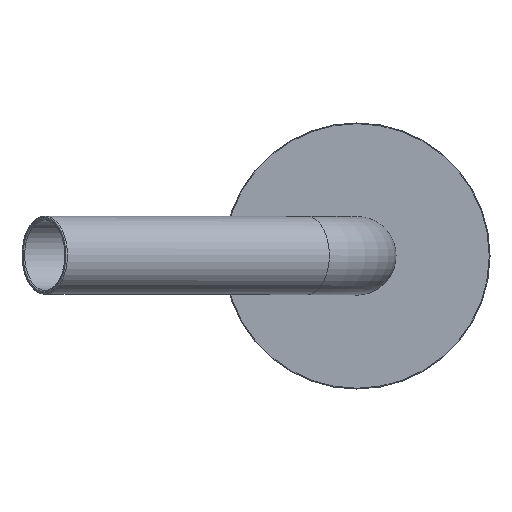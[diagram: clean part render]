
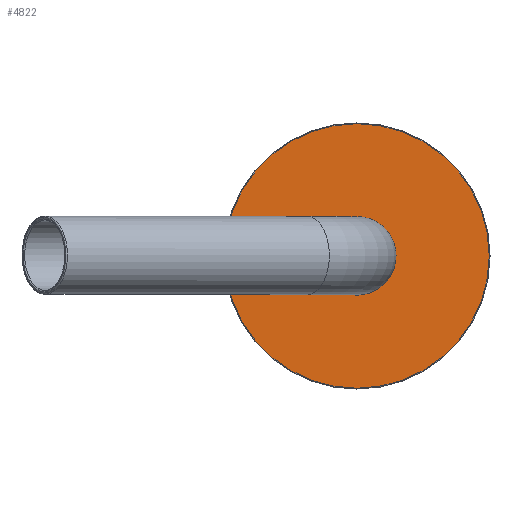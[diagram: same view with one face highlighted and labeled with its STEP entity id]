
A CAD part, top view. The second image highlights one B-rep face of the part: STEP entity #4822.
In plain terms, the highlighted planar face has unit normal (0, 0, 1).
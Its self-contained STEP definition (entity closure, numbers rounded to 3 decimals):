
#707=PLANE('',#5100);
#838=ORIENTED_EDGE('',*,*,#1770,.T.);
#839=ORIENTED_EDGE('',*,*,#1771,.T.);
#1770=EDGE_CURVE('',#2236,#2236,#2582,.F.);
#1771=EDGE_CURVE('',#2237,#2237,#2583,.T.);
#2236=VERTEX_POINT('',#6569);
#2237=VERTEX_POINT('',#6571);
#2582=CIRCLE('',#5101,33.8);
#2583=CIRCLE('',#5102,8.958);
#2743=EDGE_LOOP('',(#838));
#2744=EDGE_LOOP('',(#839));
#3079=FACE_BOUND('',#2743,.T.);
#3080=FACE_BOUND('',#2744,.T.);
#4822=ADVANCED_FACE('',(#3079,#3080),#707,.F.);
#5100=AXIS2_PLACEMENT_3D('',#6567,#5511,#5512);
#5101=AXIS2_PLACEMENT_3D('',#6568,#5513,#5514);
#5102=AXIS2_PLACEMENT_3D('',#6570,#5515,#5516);
#5511=DIRECTION('',(0.,0.,-1.));
#5512=DIRECTION('',(-1.,0.,0.));
#5513=DIRECTION('',(0.,0.,-1.));
#5514=DIRECTION('',(-1.,0.,0.));
#5515=DIRECTION('',(0.,0.,-1.));
#5516=DIRECTION('',(-1.,0.,0.));
#6567=CARTESIAN_POINT('',(0.,0.,5.5));
#6568=CARTESIAN_POINT('',(0.,0.,5.5));
#6569=CARTESIAN_POINT('',(-33.8,0.,5.5));
#6570=CARTESIAN_POINT('',(0.,0.,5.5));
#6571=CARTESIAN_POINT('',(-8.958,0.,5.5));
